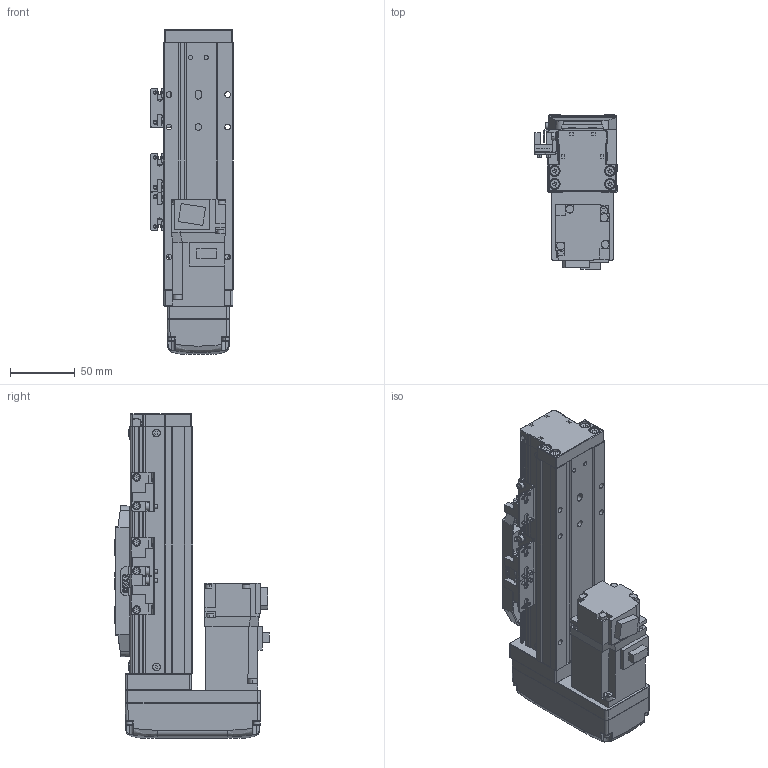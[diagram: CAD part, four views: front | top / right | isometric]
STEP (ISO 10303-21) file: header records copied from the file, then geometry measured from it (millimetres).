
FILE_DESCRIPTION (( 'STEP AP203' ), '1' );
FILE_NAME ('GTH5-50-BM-M10-C4.step', '2022-09-23T00:47:44', ( '微软用户' ), ( '微软中国' ), 'SwSTEP 2.0', 'SolidWorks 2020', '' );
FILE_SCHEMA (( 'CONFIG_CONTROL_DESIGN' ));
Length unit declared in the file: millimetre
Products named in the file (19): GTH50-004; GTH50-023; HG-KR13; GBT 70.3-M3℅6; GBT 70.1-M3℅6; GTH50-027-1_BTHA50-027-2; BTH-M3X5X6; GBT96.1-2002 3×0.8; GTH50-026; GTH50-001_50; GTH50-024; GTH5-50-BM-M10-C4; GBT 70.1-M4×16; GBT 70.1-M2.5×6; GTH50-003; GTH50-028; GTH50-006; GTH50-013; GTH50-022-1
Assembly tree (57 placements, depth 2):
  GTH5-50-BM-M10-C4
    GTH50-006
    GTH50-004
    GBT 70.3-M3℅6  x4
    BTH-M3X5X6  x8
    GTH50-001_50
    GBT 70.1-M4×16  x8
    GTH50-003
    GTH50-013
    GTH50-023  x3
    GBT 70.1-M3℅6  x12
    GBT96.1-2002 3×0.8  x6
    GTH50-024  x3
    GBT 70.1-M2.5×6  x2
    GTH50-028  x2
    GTH50-022-1
    HG-KR13
    GTH50-027-1_BTHA50-027-2
    GTH50-026
Bounding box: 63.8 x 118.9 x 250 mm (x, y, z)
Volume: 692201.3 mm3; surface area: 171236.7 mm2
Topology: 59 solids, 59 shells, 2140 faces, 4956 edges, 3036 vertices
Faces by surface type: plane 1142, cylinder 569, cone 219, torus 162, bspline 40, sphere 8
Entity records: 39420 total; most frequent: CARTESIAN_POINT 7827, DIRECTION 6045, ORIENTED_EDGE 5826, EDGE_CURVE 2913, AXIS2_PLACEMENT_3D 2092, VECTOR 1861, LINE 1861, VERTEX_POINT 1838
